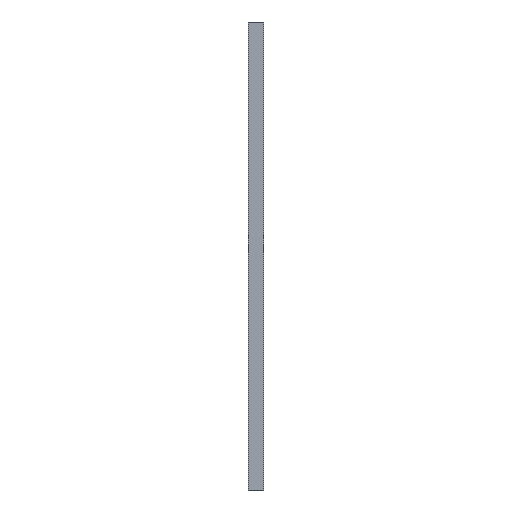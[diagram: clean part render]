
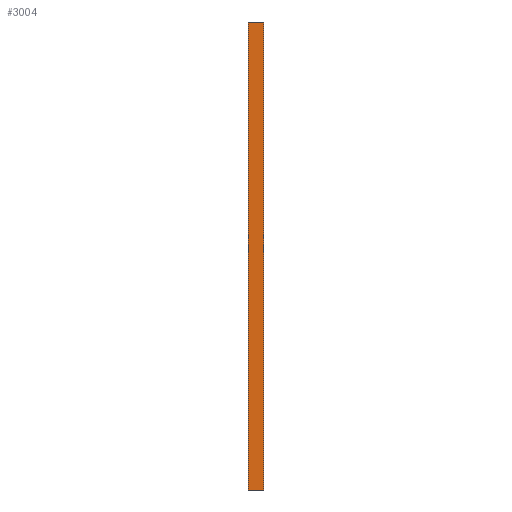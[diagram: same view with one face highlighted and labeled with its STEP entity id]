
A CAD part, left-side view. The second image highlights one B-rep face of the part: STEP entity #3004.
In plain terms, the highlighted planar face has unit normal (-1, 0, 0).
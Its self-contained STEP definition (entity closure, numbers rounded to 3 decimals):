
#30 = CARTESIAN_POINT ( 'NONE',  ( 0., 98., 1500. ) ) ;
#229 = VECTOR ( 'NONE', #3798, 1000. ) ;
#414 = VERTEX_POINT ( 'NONE', #9965 ) ;
#506 = LINE ( 'NONE', #9073, #8685 ) ;
#1068 = VECTOR ( 'NONE', #4649, 1000. ) ;
#2096 = DIRECTION ( 'NONE',  ( 1., 0., 0. ) ) ;
#2211 = CARTESIAN_POINT ( 'NONE',  ( 0., 0., 1500. ) ) ;
#2286 = ORIENTED_EDGE ( 'NONE', *, *, #2423, .T. ) ;
#2419 = LINE ( 'NONE', #4662, #229 ) ;
#2423 = EDGE_CURVE ( 'NONE', #414, #7902, #9974, .T. ) ;
#2745 = FACE_OUTER_BOUND ( 'NONE', #7977, .T. ) ;
#2851 = PLANE ( 'NONE',  #3771 ) ;
#3004 = ADVANCED_FACE ( 'NONE', ( #2745 ), #2851, .F. ) ;
#3399 = CARTESIAN_POINT ( 'NONE',  ( 0., 0., -1500. ) ) ;
#3711 = ORIENTED_EDGE ( 'NONE', *, *, #5349, .F. ) ;
#3771 = AXIS2_PLACEMENT_3D ( 'NONE', #9038, #2096, #5188 ) ;
#3798 = DIRECTION ( 'NONE',  ( 0., -1., 0. ) ) ;
#3833 = DIRECTION ( 'NONE',  ( 0., 0., -1. ) ) ;
#4091 = VECTOR ( 'NONE', #3833, 1000. ) ;
#4367 = EDGE_CURVE ( 'NONE', #7902, #7075, #2419, .T. ) ;
#4649 = DIRECTION ( 'NONE',  ( 0., -1., 0. ) ) ;
#4662 = CARTESIAN_POINT ( 'NONE',  ( 0., 0., -1500. ) ) ;
#4743 = EDGE_CURVE ( 'NONE', #414, #6628, #6916, .T. ) ;
#5188 = DIRECTION ( 'NONE',  ( 0., 0., -1. ) ) ;
#5349 = EDGE_CURVE ( 'NONE', #6628, #7075, #506, .T. ) ;
#6103 = ORIENTED_EDGE ( 'NONE', *, *, #4743, .F. ) ;
#6628 = VERTEX_POINT ( 'NONE', #7764 ) ;
#6916 = LINE ( 'NONE', #2211, #1068 ) ;
#7075 = VERTEX_POINT ( 'NONE', #3399 ) ;
#7438 = DIRECTION ( 'NONE',  ( 0., 0., -1. ) ) ;
#7764 = CARTESIAN_POINT ( 'NONE',  ( 0., 0., 1500. ) ) ;
#7902 = VERTEX_POINT ( 'NONE', #9546 ) ;
#7977 = EDGE_LOOP ( 'NONE', ( #8690, #3711, #6103, #2286 ) ) ;
#8685 = VECTOR ( 'NONE', #7438, 1000. ) ;
#8690 = ORIENTED_EDGE ( 'NONE', *, *, #4367, .T. ) ;
#9038 = CARTESIAN_POINT ( 'NONE',  ( 0., 0., 1500. ) ) ;
#9073 = CARTESIAN_POINT ( 'NONE',  ( 0., 0., 1500. ) ) ;
#9546 = CARTESIAN_POINT ( 'NONE',  ( 0., 98., -1500. ) ) ;
#9965 = CARTESIAN_POINT ( 'NONE',  ( 0., 98., 1500. ) ) ;
#9974 = LINE ( 'NONE', #30, #4091 ) ;
